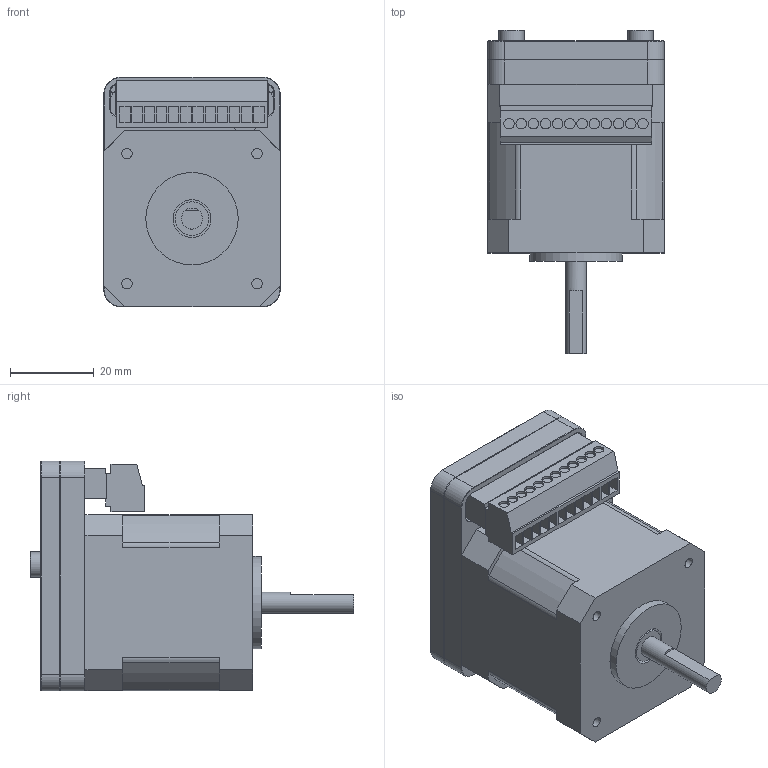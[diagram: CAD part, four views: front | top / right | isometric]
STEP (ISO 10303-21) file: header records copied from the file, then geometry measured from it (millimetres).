
FILE_DESCRIPTION(/* description */ ('Unknown'),/* implementation_level */ '2;1');
FILE_NAME(/* name */ 'SLIM-2440-5CAN',/* time_stamp */ '2024-01-29T15:03:14+08:00',/* author */ ('Unknown'),/* organization */ ('Unknown'),/* preprocessor_version */ 'ST-DEVELOPER v16.7',/* originating_system */ 'DEX',/* authorisation */ $);
FILE_SCHEMA (('AUTOMOTIVE_DESIGN {1 0 10303 214 3 1 1}'));
Length unit declared in the file: millimetre
Products named in the file (1): SLIM-2440-5CAN
Bounding box: 42 x 77 x 54.7 mm (x, y, z)
Volume: 82835.1 mm3; surface area: 22613.7 mm2
Topology: 1 solids, 1 shells, 360 faces, 904 edges, 586 vertices
Faces by surface type: plane 223, cylinder 101, cone 36
Full cylindrical faces by diameter (mm): 2.459 x4, 2.5 x16, 3 x3, 3.2 x6, 5 x1, 6 x2, 8 x1, 9 x1, 12 x1, 22 x1
Entity records: 12715 total; most frequent: DIRECTION 1788, CARTESIAN_POINT 1727, ORIENTED_EDGE 1638, EDGE_CURVE 819, AXIS2_PLACEMENT_3D 608, LINE 572, VECTOR 572, VERTEX_POINT 547
